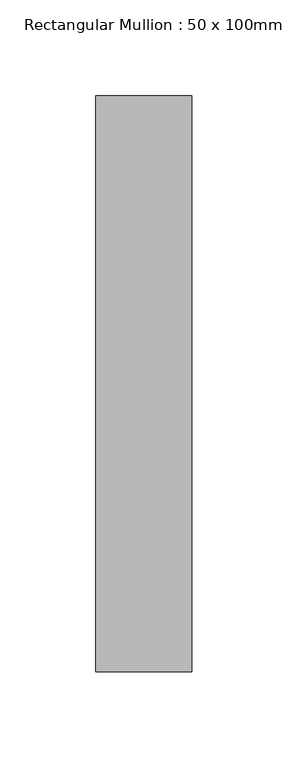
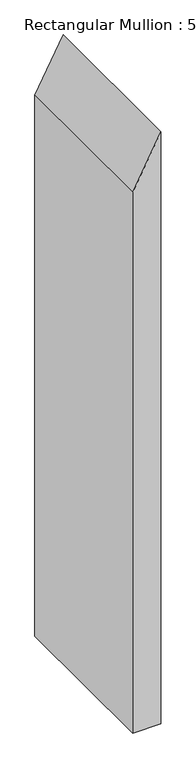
"""IFC4 building model written with IfcOpenShell, lengths in millimetres: member geometry, Rectangular Mullion : 50 x 100mm."""

from ifc_helpers import new_model, si_unit, frame, origin, place, context, project, spatial, polyline, outline, extrude, source, transform, mapped, element, save


def rectangular_mullion_50_x_100mm_ac3615d9(model_context):
    return source(origin(), model_context, "Body", "SweptSolid", [
        extrude(outline(polyline([(0.0, 0.0), (-96.0491063, -50.0), (-1109.8298468, -50.0), (-1109.8298468, 0.0), (0.0, 0.0)])), frame((0.0, -125.0, 0.0), z_axis=(0.0, 1.0, 0.0), x_axis=(0.0, 0.0, 1.0)), (0.0, 0.0, 1.0), 300.0),
    ])


if __name__ == "__main__":
    model = new_model("IFC4")
    model_context = context("Model", 3, world=origin())
    ifc_project = project(units=[si_unit("LENGTHUNIT", "METRE", prefix="MILLI")], contexts=[model_context])
    site = spatial("IfcSite", under=ifc_project)
    building = spatial("IfcBuilding", under=site)
    placement = place(None, origin())
    rectangular_mullion_50_x_100mm_shape = rectangular_mullion_50_x_100mm_ac3615d9(model_context)
    element("IfcMember", 1, ObjectType="Rectangular Mullion : 50 x 100mm", at=placement, inside=building, context=model_context, shape_type="MappedRepresentation", body=[
        mapped(rectangular_mullion_50_x_100mm_shape, transform((0.0, 0.0, 0.0), x_axis=(1.0, 0.0, 0.0), y_axis=(0.0, 1.0, 0.0), z_axis=(0.0, 0.0, 1.0))),
    ])
    save(model, "model.ifc")
